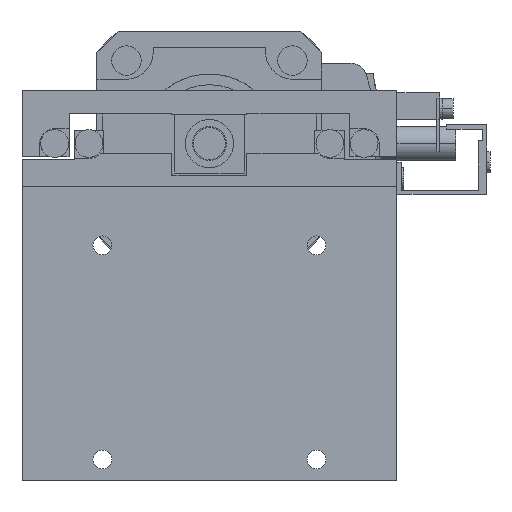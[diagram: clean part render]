
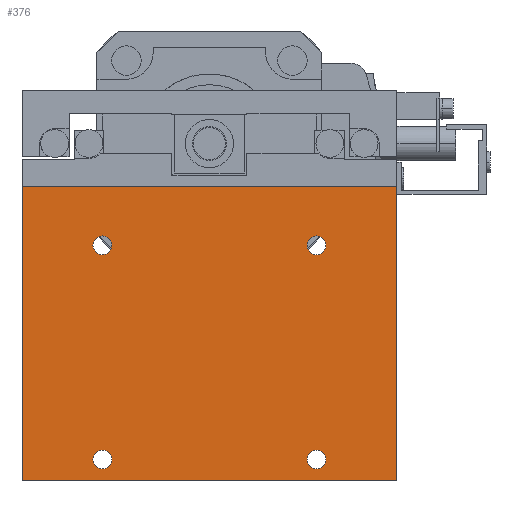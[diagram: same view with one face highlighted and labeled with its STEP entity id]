
A CAD part, front view. The second image highlights one B-rep face of the part: STEP entity #376.
In plain terms, the highlighted planar face has unit normal (0, -1, 0).
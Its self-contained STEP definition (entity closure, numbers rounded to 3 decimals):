
#376=ADVANCED_FACE('',(#1138,#1139,#1140,#1141,#1142),#1143,.F.);
#1138=FACE_BOUND('',#2763,.T.);
#1139=FACE_BOUND('',#2764,.T.);
#1140=FACE_BOUND('',#2765,.T.);
#1141=FACE_BOUND('',#2766,.T.);
#1142=FACE_OUTER_BOUND('',#2767,.T.);
#1143=PLANE('',#2768);
#2763=EDGE_LOOP('',(#4453,#4454));
#2764=EDGE_LOOP('',(#4455,#4456));
#2765=EDGE_LOOP('',(#4457,#4458));
#2766=EDGE_LOOP('',(#4459,#4460));
#2767=EDGE_LOOP('',(#4461,#4462,#4463,#4464));
#2768=AXIS2_PLACEMENT_3D('',#4465,#4466,#4467);
#4453=ORIENTED_EDGE('',*,*,#10446,.F.);
#4454=ORIENTED_EDGE('',*,*,#10397,.F.);
#4455=ORIENTED_EDGE('',*,*,#10447,.F.);
#4456=ORIENTED_EDGE('',*,*,#10429,.F.);
#4457=ORIENTED_EDGE('',*,*,#10448,.F.);
#4458=ORIENTED_EDGE('',*,*,#10437,.F.);
#4459=ORIENTED_EDGE('',*,*,#10449,.F.);
#4460=ORIENTED_EDGE('',*,*,#10433,.F.);
#4461=ORIENTED_EDGE('',*,*,#10450,.T.);
#4462=ORIENTED_EDGE('',*,*,#10451,.F.);
#4463=ORIENTED_EDGE('',*,*,#10452,.F.);
#4464=ORIENTED_EDGE('',*,*,#10443,.T.);
#4465=CARTESIAN_POINT('',(-35.0,0.0,-25.5));
#4466=DIRECTION('',(0.0,1.0,0.0));
#4467=DIRECTION('',(-1.0,0.0,0.0));
#10397=EDGE_CURVE('',#12293,#12289,#12295,.T.);
#10429=EDGE_CURVE('',#12357,#12353,#12359,.T.);
#10433=EDGE_CURVE('',#12365,#12361,#12367,.T.);
#10437=EDGE_CURVE('',#12373,#12369,#12375,.T.);
#10443=EDGE_CURVE('',#12387,#12385,#12388,.T.);
#10446=EDGE_CURVE('',#12289,#12293,#12392,.T.);
#10447=EDGE_CURVE('',#12353,#12357,#12393,.T.);
#10448=EDGE_CURVE('',#12369,#12373,#12394,.T.);
#10449=EDGE_CURVE('',#12361,#12365,#12395,.T.);
#10450=EDGE_CURVE('',#12385,#12396,#12397,.T.);
#10451=EDGE_CURVE('',#12398,#12396,#12399,.T.);
#10452=EDGE_CURVE('',#12387,#12398,#12400,.T.);
#12289=VERTEX_POINT('',#15394);
#12293=VERTEX_POINT('',#15399);
#12295=CIRCLE('',#15402,1.75);
#12353=VERTEX_POINT('',#15474);
#12357=VERTEX_POINT('',#15479);
#12359=CIRCLE('',#15482,1.75);
#12361=VERTEX_POINT('',#15484);
#12365=VERTEX_POINT('',#15489);
#12367=CIRCLE('',#15492,1.75);
#12369=VERTEX_POINT('',#15494);
#12373=VERTEX_POINT('',#15499);
#12375=CIRCLE('',#15502,1.75);
#12385=VERTEX_POINT('',#15514);
#12387=VERTEX_POINT('',#15517);
#12388=LINE('',#15518,#15519);
#12392=CIRCLE('',#15525,1.75);
#12393=CIRCLE('',#15526,1.75);
#12394=CIRCLE('',#15527,1.75);
#12395=CIRCLE('',#15528,1.75);
#12396=VERTEX_POINT('',#15529);
#12397=LINE('',#15530,#15531);
#12398=VERTEX_POINT('',#15532);
#12399=LINE('',#15533,#15534);
#12400=LINE('',#15535,#15536);
#15394=CARTESIAN_POINT('',(20.0,0.0,20.25));
#15399=CARTESIAN_POINT('',(20.0,0.0,16.75));
#15402=AXIS2_PLACEMENT_3D('',#20017,#20018,#20019);
#15474=CARTESIAN_POINT('',(-20.0,0.0,-19.75));
#15479=CARTESIAN_POINT('',(-20.0,0.0,-23.25));
#15482=AXIS2_PLACEMENT_3D('',#20081,#20082,#20083);
#15484=CARTESIAN_POINT('',(-20.0,0.0,20.25));
#15489=CARTESIAN_POINT('',(-20.0,0.0,16.75));
#15492=AXIS2_PLACEMENT_3D('',#20089,#20090,#20091);
#15494=CARTESIAN_POINT('',(20.0,0.0,-19.75));
#15499=CARTESIAN_POINT('',(20.0,0.0,-23.25));
#15502=AXIS2_PLACEMENT_3D('',#20097,#20098,#20099);
#15514=CARTESIAN_POINT('',(35.0,0.0,-25.5));
#15517=CARTESIAN_POINT('',(-35.0,0.0,-25.5));
#15518=CARTESIAN_POINT('',(-35.0,0.0,-25.5));
#15519=VECTOR('',#20109,1000.0);
#15525=AXIS2_PLACEMENT_3D('',#20112,#20113,#20114);
#15526=AXIS2_PLACEMENT_3D('',#20115,#20116,#20117);
#15527=AXIS2_PLACEMENT_3D('',#20118,#20119,#20120);
#15528=AXIS2_PLACEMENT_3D('',#20121,#20122,#20123);
#15529=CARTESIAN_POINT('',(35.0,0.0,29.5));
#15530=CARTESIAN_POINT('',(35.0,0.0,-25.5));
#15531=VECTOR('',#20124,1000.0);
#15532=CARTESIAN_POINT('',(-35.0,0.0,29.5));
#15533=CARTESIAN_POINT('',(-35.0,0.0,29.5));
#15534=VECTOR('',#20125,1000.0);
#15535=CARTESIAN_POINT('',(-35.0,0.0,-25.5));
#15536=VECTOR('',#20126,1000.0);
#20017=CARTESIAN_POINT('',(20.0,0.0,18.5));
#20018=DIRECTION('',(0.0,-1.0,0.0));
#20019=DIRECTION('',(0.0,0.0,1.0));
#20081=CARTESIAN_POINT('',(-20.0,0.0,-21.5));
#20082=DIRECTION('',(0.0,-1.0,0.0));
#20083=DIRECTION('',(0.0,0.0,1.0));
#20089=CARTESIAN_POINT('',(-20.0,0.0,18.5));
#20090=DIRECTION('',(0.0,-1.0,0.0));
#20091=DIRECTION('',(0.0,0.0,1.0));
#20097=CARTESIAN_POINT('',(20.0,0.0,-21.5));
#20098=DIRECTION('',(0.0,-1.0,0.0));
#20099=DIRECTION('',(0.0,0.0,1.0));
#20109=DIRECTION('',(1.0,0.0,0.0));
#20112=CARTESIAN_POINT('',(20.0,0.0,18.5));
#20113=DIRECTION('',(0.0,-1.0,0.0));
#20114=DIRECTION('',(0.0,0.0,1.0));
#20115=CARTESIAN_POINT('',(-20.0,0.0,-21.5));
#20116=DIRECTION('',(0.0,-1.0,0.0));
#20117=DIRECTION('',(0.0,0.0,1.0));
#20118=CARTESIAN_POINT('',(20.0,0.0,-21.5));
#20119=DIRECTION('',(0.0,-1.0,0.0));
#20120=DIRECTION('',(0.0,0.0,1.0));
#20121=CARTESIAN_POINT('',(-20.0,0.0,18.5));
#20122=DIRECTION('',(0.0,-1.0,0.0));
#20123=DIRECTION('',(0.0,0.0,1.0));
#20124=DIRECTION('',(0.0,0.0,1.0));
#20125=DIRECTION('',(1.0,0.0,0.0));
#20126=DIRECTION('',(0.0,0.0,1.0));
